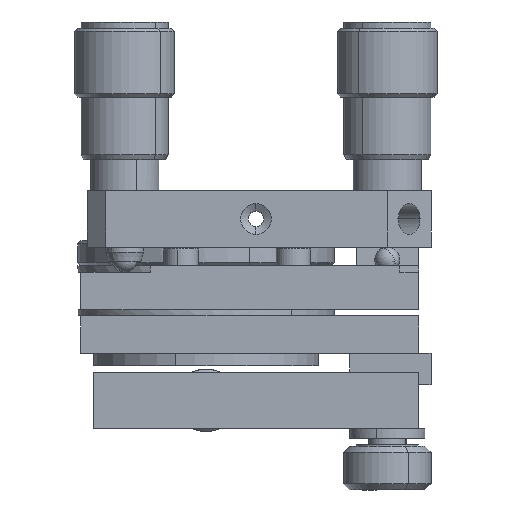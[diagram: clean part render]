
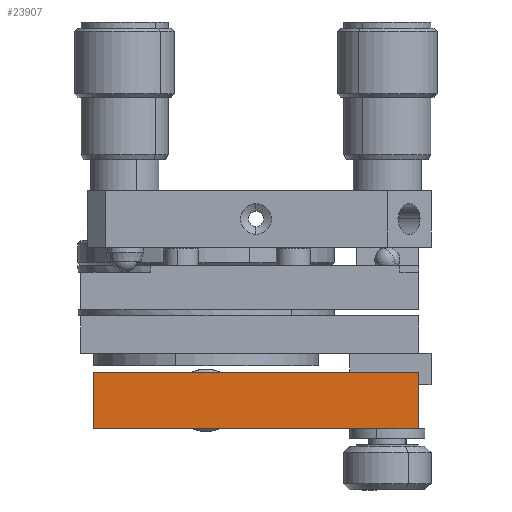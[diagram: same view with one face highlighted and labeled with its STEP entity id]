
A CAD part, left-side view. The second image highlights one B-rep face of the part: STEP entity #23907.
In plain terms, the highlighted planar face has unit normal (-1, 0, 0).
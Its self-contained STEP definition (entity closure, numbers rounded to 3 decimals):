
#15002=CARTESIAN_POINT('',(-42.669,-40.246,-52.282));
#15003=VERTEX_POINT('',#15002);
#15010=CARTESIAN_POINT('',(-42.669,11.754,-52.282));
#15011=VERTEX_POINT('',#15010);
#15012=CARTESIAN_POINT('',(-42.669,11.754,-52.282));
#15013=DIRECTION('',(0.0,-1.0,0.0));
#15014=VECTOR('',#15013,52.0);
#15015=LINE('',#15012,#15014);
#15016=EDGE_CURVE('',#15011,#15003,#15015,.T.);
#23295=CARTESIAN_POINT('',(-42.669,-40.246,-43.282));
#23296=VERTEX_POINT('',#23295);
#23303=CARTESIAN_POINT('',(-42.669,-40.246,-52.282));
#23304=DIRECTION('',(0.0,0.0,1.0));
#23305=VECTOR('',#23304,9.0);
#23306=LINE('',#23303,#23305);
#23307=EDGE_CURVE('',#15003,#23296,#23306,.T.);
#23884=CARTESIAN_POINT('',(-42.669,-40.246,-52.282));
#23885=DIRECTION('',(-1.0,0.0,0.0));
#23886=DIRECTION('',(0.0,0.0,-1.0));
#23887=AXIS2_PLACEMENT_3D('',#23884,#23885,#23886);
#23888=PLANE('',#23887);
#23889=CARTESIAN_POINT('',(-42.669,11.754,-43.282));
#23890=VERTEX_POINT('',#23889);
#23891=CARTESIAN_POINT('',(-42.669,-40.246,-43.282));
#23892=DIRECTION('',(0.0,1.0,0.0));
#23893=VECTOR('',#23892,52.0);
#23894=LINE('',#23891,#23893);
#23895=EDGE_CURVE('',#23296,#23890,#23894,.T.);
#23896=ORIENTED_EDGE('',*,*,#23895,.T.);
#23897=CARTESIAN_POINT('',(-42.669,11.754,-52.282));
#23898=DIRECTION('',(0.0,0.0,1.0));
#23899=VECTOR('',#23898,9.0);
#23900=LINE('',#23897,#23899);
#23901=EDGE_CURVE('',#15011,#23890,#23900,.T.);
#23902=ORIENTED_EDGE('',*,*,#23901,.F.);
#23903=ORIENTED_EDGE('',*,*,#15016,.T.);
#23904=ORIENTED_EDGE('',*,*,#23307,.T.);
#23905=EDGE_LOOP('',(#23896,#23902,#23903,#23904));
#23906=FACE_OUTER_BOUND('',#23905,.T.);
#23907=ADVANCED_FACE('',(#23906),#23888,.T.);
